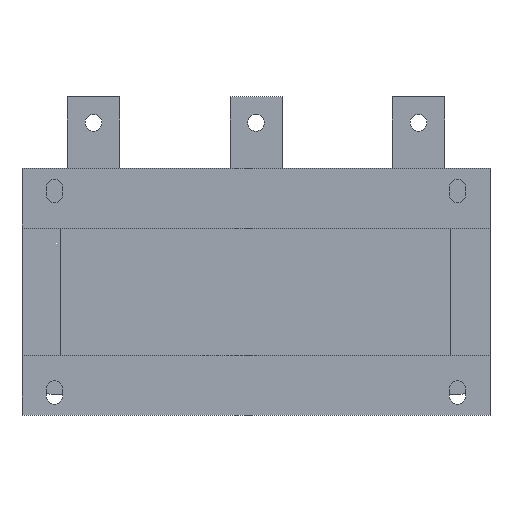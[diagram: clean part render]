
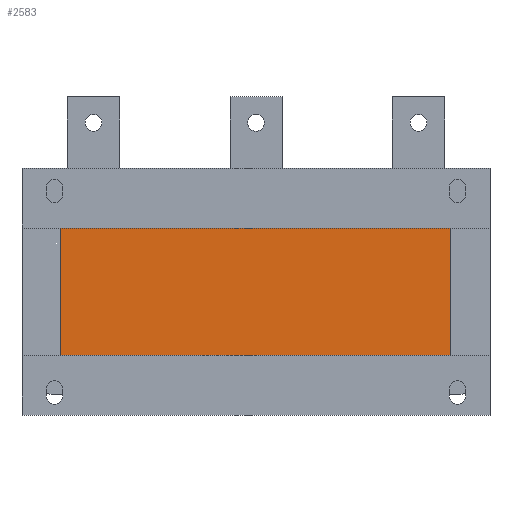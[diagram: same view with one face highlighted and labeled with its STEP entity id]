
A CAD part, front view. The second image highlights one B-rep face of the part: STEP entity #2583.
In plain terms, the highlighted planar face has unit normal (0, -1, 0).
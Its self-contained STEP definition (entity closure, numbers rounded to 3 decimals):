
#92=PLANE('',#2776);
#216=FACE_OUTER_BOUND('',#364,.T.);
#364=EDGE_LOOP('',(#2058,#2059,#2060,#2061));
#600=LINE('',#3963,#918);
#601=LINE('',#3965,#919);
#602=LINE('',#3967,#920);
#603=LINE('',#3968,#921);
#918=VECTOR('',#3232,10.);
#919=VECTOR('',#3233,10.);
#920=VECTOR('',#3234,10.);
#921=VECTOR('',#3235,10.);
#1263=VERTEX_POINT('',#3961);
#1264=VERTEX_POINT('',#3962);
#1265=VERTEX_POINT('',#3964);
#1266=VERTEX_POINT('',#3966);
#1565=EDGE_CURVE('',#1263,#1264,#600,.T.);
#1566=EDGE_CURVE('',#1265,#1263,#601,.T.);
#1567=EDGE_CURVE('',#1266,#1265,#602,.T.);
#1568=EDGE_CURVE('',#1264,#1266,#603,.T.);
#2058=ORIENTED_EDGE('',*,*,#1565,.F.);
#2059=ORIENTED_EDGE('',*,*,#1566,.F.);
#2060=ORIENTED_EDGE('',*,*,#1567,.F.);
#2061=ORIENTED_EDGE('',*,*,#1568,.F.);
#2583=ADVANCED_FACE('',(#216),#92,.F.);
#2776=AXIS2_PLACEMENT_3D('',#3960,#3230,#3231);
#3230=DIRECTION('center_axis',(0.,1.,0.));
#3231=DIRECTION('ref_axis',(0.,0.,1.));
#3232=DIRECTION('',(1.,0.,0.));
#3233=DIRECTION('',(0.,0.,1.));
#3234=DIRECTION('',(-1.,0.,0.));
#3235=DIRECTION('',(0.,0.,-1.));
#3960=CARTESIAN_POINT('Origin',(0.,2.,0.));
#3961=CARTESIAN_POINT('',(-150.,2.,49.));
#3962=CARTESIAN_POINT('',(150.,2.,49.));
#3963=CARTESIAN_POINT('',(150.,2.,49.));
#3964=CARTESIAN_POINT('',(-150.,2.,-49.));
#3965=CARTESIAN_POINT('',(-150.,2.,-24.5));
#3966=CARTESIAN_POINT('',(150.,2.,-49.));
#3967=CARTESIAN_POINT('',(-150.,2.,-49.));
#3968=CARTESIAN_POINT('',(150.,2.,24.5));
